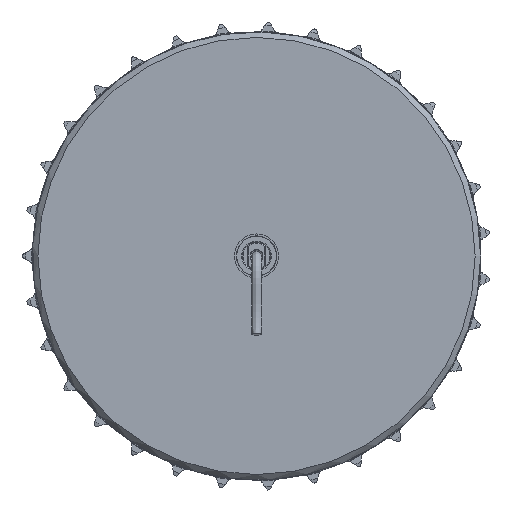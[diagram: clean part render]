
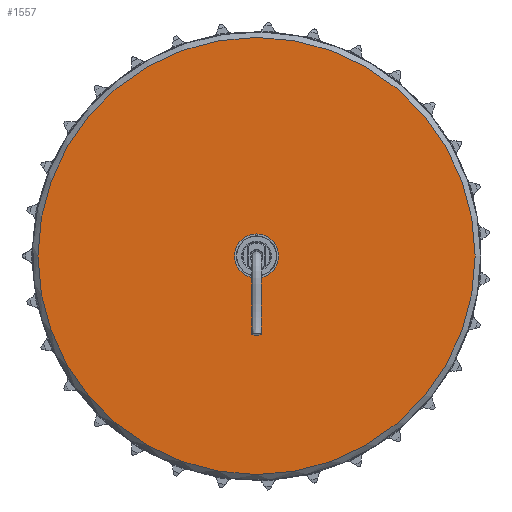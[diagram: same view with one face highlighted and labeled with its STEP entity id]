
A CAD part, left-side view. The second image highlights one B-rep face of the part: STEP entity #1557.
In plain terms, the highlighted free-form (B-spline) face has degree [1, 1] with [2, 2] control points.
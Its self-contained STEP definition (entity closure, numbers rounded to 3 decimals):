
#1278=CARTESIAN_POINT('',(0.0,12.,-45.0));
#1279=VERTEX_POINT('',#1278);
#1280=CARTESIAN_POINT('',(0.0,0.0,-45.0));
#1281=DIRECTION('',(0.0,0.0,-1.0));
#1282=DIRECTION('',(0.0,1.0,0.0));
#1283=AXIS2_PLACEMENT_3D('',#1280,#1281,#1282);
#1284=CIRCLE('',#1283,12.);
#1285=EDGE_CURVE('',#1279,#1279,#1284,.T.);
#1506=CARTESIAN_POINT('',(0.0,-118.992,-45.0));
#1507=VERTEX_POINT('',#1506);
#1508=CARTESIAN_POINT('',(0.0,0.0,-45.0));
#1509=DIRECTION('',(0.0,0.0,-1.0));
#1510=DIRECTION('',(0.0,-1.0,0.0));
#1511=AXIS2_PLACEMENT_3D('',#1508,#1509,#1510);
#1512=CIRCLE('',#1511,118.992);
#1513=EDGE_CURVE('',#1507,#1507,#1512,.T.);
#1546=CARTESIAN_POINT('',(118.992,118.992,-45.0));
#1547=CARTESIAN_POINT('',(-118.992,118.992,-45.0));
#1548=CARTESIAN_POINT('',(118.992,-118.992,-45.0));
#1549=CARTESIAN_POINT('',(-118.992,-118.992,-45.0));
#1550=B_SPLINE_SURFACE_WITH_KNOTS('',1,1,((#1546,#1548),(#1547,#1549)),.UNSPECIFIED.,.F.,.F.,.U.,(2,2),(2,2),(0.0,237.983),(0.0,237.983),.UNSPECIFIED.);
#1551=ORIENTED_EDGE('',*,*,#1513,.T.);
#1552=EDGE_LOOP('',(#1551));
#1553=FACE_OUTER_BOUND('',#1552,.T.);
#1554=ORIENTED_EDGE('',*,*,#1285,.F.);
#1555=EDGE_LOOP('',(#1554));
#1556=FACE_BOUND('',#1555,.T.);
#1557=ADVANCED_FACE('',(#1553,#1556),#1550,.F.);
